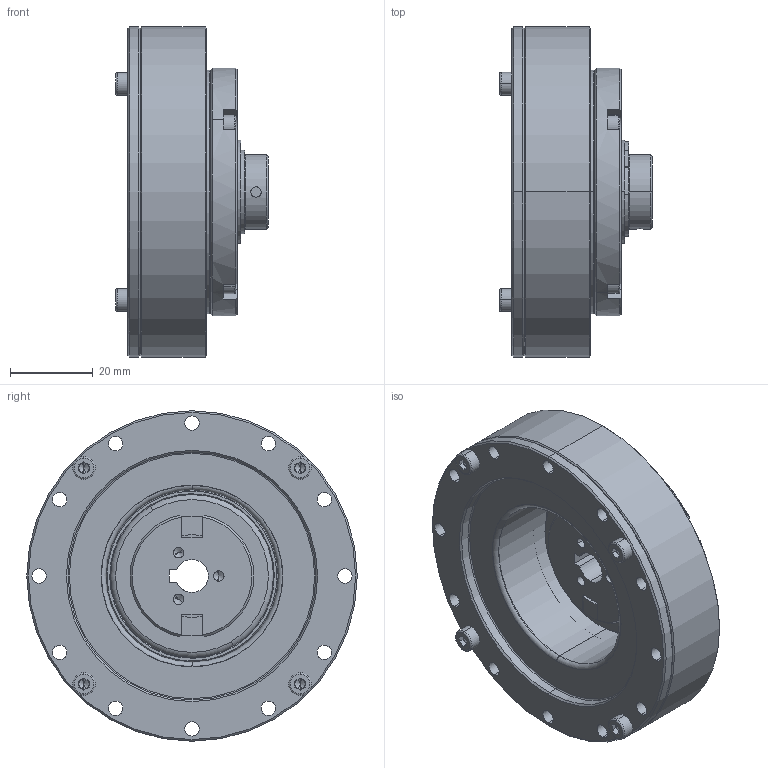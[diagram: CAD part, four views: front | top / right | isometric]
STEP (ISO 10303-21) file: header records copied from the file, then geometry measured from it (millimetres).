
FILE_DESCRIPTION (( 'STEP AP214' ), '1' );
FILE_NAME ('SHF-17-I.STEP', '2021-07-04T01:49:09', ( 'PC' ), ( 'Microsoft' ), 'SwSTEP 2.0', 'SolidWorks 2016', '' );
FILE_SCHEMA (( 'AUTOMOTIVE_DESIGN' ));
Length unit declared in the file: millimetre
Products named in the file (22): STXB-T17-P05_蕼偞; STXB-T17-P03_蕼偞; STXB-T17-P02_蕼偞; STXB-T17-P01_蕼偞; 荎秶試謫-STXB-17080; 英制柔轮-STXB-17080; 蝠脫粣創-STRU-17-80-160X朴80-V1; hexagon socket head cap screws gb_GB_FASTENER_SCREWS_HSHCS M2X5-C; 17眄璃; 交叉轴承隔块-17-80-反向-V0; 蝠脫粣創路輸-17-80-V0; O形密封圈-Φ65XΦ18; 蝠脫粣創-幗赽-朴4; 蝠脫粣創-蚐猾-STRU-17-80; 交叉轴承-内圈-STRU-17-80-V1; hexagon socket head cap screws gb_GB_FASTENER_SCREWS_HSHCS M3X8-C; 交叉轴承-外圈-STRU-17-80; 17-80疏楷汜ん郪璃_蕼偞; STXB-T17-080-P04_蕼偞; SHF-17-I; 17柔性轴承; circlips for shaft--type a large gb_GB_CONNECTING_PIECE_RING_RRA 18
Assembly tree (97 placements, depth 3):
  SHF-17-I
    蝠脫粣創-STRU-17-80-160X朴80-V1
      交叉轴承-外圈-STRU-17-80
      交叉轴承-内圈-STRU-17-80-V1
      蝠脫粣創-蚐猾-STRU-17-80
      蝠脫粣創-幗赽-朴4  x36
      O形密封圈-Φ65XΦ18
      蝠脫粣創路輸-17-80-V0  x18
      交叉轴承隔块-17-80-反向-V0  x18
      17眄璃
      hexagon socket head cap screws gb_GB_FASTENER_SCREWS_HSHCS M2X5-C
    英制柔轮-STXB-17080
    荎秶試謫-STXB-17080
    17-80疏楷汜ん郪璃_蕼偞
      STXB-T17-P01_蕼偞
      STXB-T17-P02_蕼偞
      STXB-T17-P03_蕼偞
      STXB-T17-P05_蕼偞
      circlips for shaft--type a large gb_GB_CONNECTING_PIECE_RING_RRA 18
      17柔性轴承
      STXB-T17-080-P04_蕼偞
    hexagon socket head cap screws gb_GB_FASTENER_SCREWS_HSHCS M3X8-C  x8
Bounding box: 37 x 80 x 80 mm (x, y, z)
Volume: 75376.4 mm3; surface area: 71337 mm2
Topology: 96 solids, 96 shells, 2837 faces, 7446 edges, 4789 vertices
Faces by surface type: cylinder 1526, plane 934, cone 329, torus 42, bspline 6
Entity records: 77292 total; most frequent: CARTESIAN_POINT 26368, ORIENTED_EDGE 11376, DIRECTION 8516, EDGE_CURVE 5688, VERTEX_POINT 3734, AXIS2_PLACEMENT_3D 3229, B_SPLINE_CURVE_WITH_KNOTS 2510, EDGE_LOOP 2222
